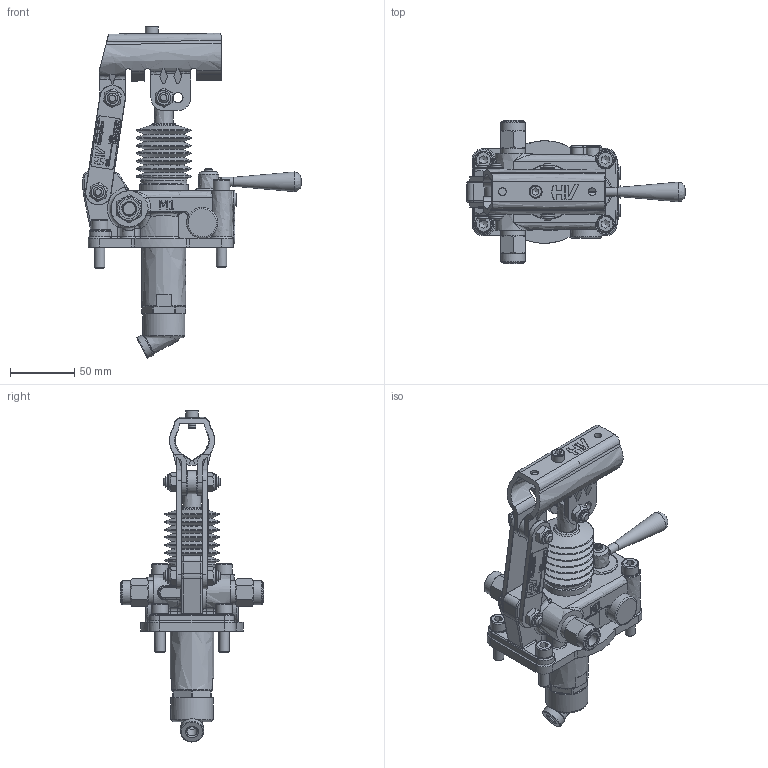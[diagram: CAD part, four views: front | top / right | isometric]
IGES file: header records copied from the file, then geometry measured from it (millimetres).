
Global section: file name: No Iges File Name specified; native system: Autodesk Inventor 2013; preprocessor: AutoDesk Inventor Iges Exporter R2013; author: christian.scardovi; date: 20240307.133640; units: millimetre
Bounding box: 170 x 112 x 258.8 mm (x, y, z)
Volume: 452465.7 mm3; surface area: 124746.3 mm2
Topology: 3 solids, 3 shells, 1700 faces, 4342 edges, 2757 vertices
Faces by surface type: bspline 1700
